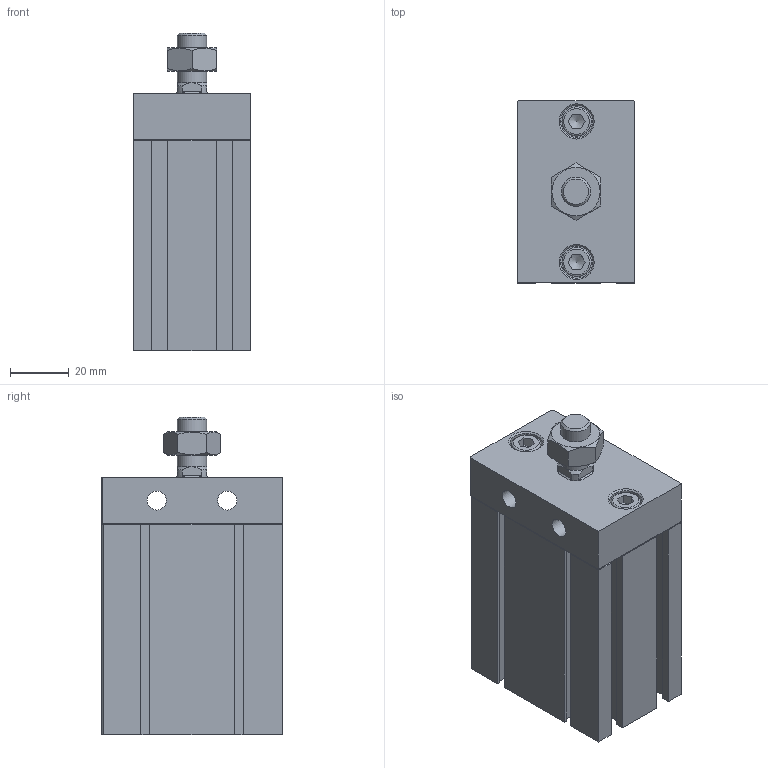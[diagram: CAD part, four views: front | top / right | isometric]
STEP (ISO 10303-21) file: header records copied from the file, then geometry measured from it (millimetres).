
FILE_DESCRIPTION((''),'2;1');
FILE_NAME('I:\3D電子目錄\氣缸\ND\ND\ND32-B\ND32x40-B.stp','2007-07-30T20:22:06',('Administrator'),(''),'Autodesk Inventor 11','Autodesk Inventor 11','');
FILE_SCHEMA(('AUTOMOTIVE_DESIGN { 1 0 10303 214 1 1 1 1 }'));
Length unit declared in the file: millimetre
Products named in the file (4): ND32-B; R 形環 34; ISO 4762 M6 x 16
Assembly tree (4 placements, depth 2):
  ND32-B
    ND32-B
    R 形環 34
    ISO 4762 M6 x 16  x2
Bounding box: 40 x 62.1 x 108.5 mm (x, y, z)
Volume: 197201.4 mm3; surface area: 38608.2 mm2
Topology: 5 solids, 5 shells, 205 faces, 489 edges, 311 vertices
Faces by surface type: plane 141, cylinder 27, cone 20, bspline 14, torus 3
Full cylindrical faces by diameter (mm): 1.9 x2, 2.2 x2, 6 x2, 6.5 x2, 10 x4, 11 x2, 23 x1, 34 x1, 36 x1
Entity records: 5447 total; most frequent: CARTESIAN_POINT 1131, DIRECTION 848, ORIENTED_EDGE 824, EDGE_CURVE 412, VECTOR 294, LINE 294, VERTEX_POINT 286, AXIS2_PLACEMENT_3D 277
